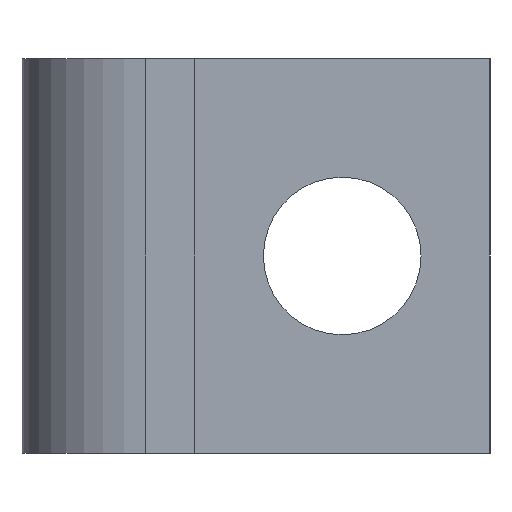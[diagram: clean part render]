
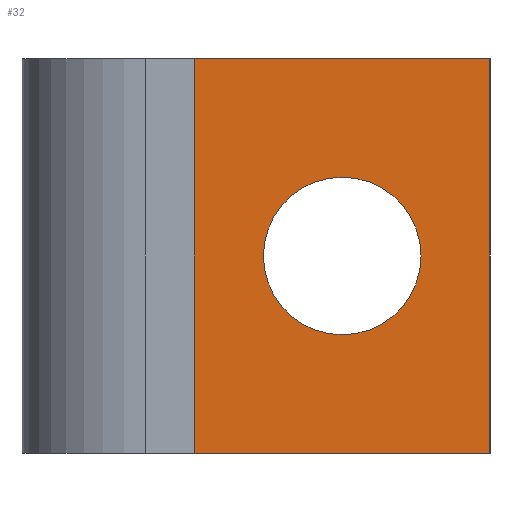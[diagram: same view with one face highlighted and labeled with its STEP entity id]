
A CAD part, left-side view. The second image highlights one B-rep face of the part: STEP entity #32.
In plain terms, the highlighted planar face has unit normal (-1, 0, 0).
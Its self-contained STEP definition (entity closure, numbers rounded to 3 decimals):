
#7 = AXIS2_PLACEMENT_3D ( 'NONE', #591, #601, #607 ) ;
#17 = EDGE_CURVE ( 'NONE', #400, #382, #231, .T. ) ;
#32 = ADVANCED_FACE ( 'NONE', ( #248, #233 ), #385, .T. ) ;
#49 = EDGE_CURVE ( 'NONE', #420, #417, #310, .T. ) ;
#51 = EDGE_CURVE ( 'NONE', #363, #359, #289, .T. ) ;
#53 = EDGE_CURVE ( 'NONE', #382, #417, #263, .T. ) ;
#94 = EDGE_CURVE ( 'NONE', #400, #420, #325, .T. ) ;
#98 = ORIENTED_EDGE ( 'NONE', *, *, #49, .F. ) ;
#113 = ORIENTED_EDGE ( 'NONE', *, *, #53, .T. ) ;
#114 = ORIENTED_EDGE ( 'NONE', *, *, #94, .F. ) ;
#115 = ORIENTED_EDGE ( 'NONE', *, *, #17, .T. ) ;
#118 = ORIENTED_EDGE ( 'NONE', *, *, #51, .F. ) ;
#138 = ORIENTED_EDGE ( 'NONE', *, *, #676, .F. ) ;
#213 = EDGE_LOOP ( 'NONE', ( #98, #114, #115, #113 ) ) ;
#215 = EDGE_LOOP ( 'NONE', ( #138, #118 ) ) ;
#231 = LINE ( 'NONE', #378, #243 ) ;
#233 = FACE_OUTER_BOUND ( 'NONE', #213, .T. ) ;
#243 = VECTOR ( 'NONE', #410, 1000. ) ;
#248 = FACE_BOUND ( 'NONE', #215, .T. ) ;
#263 = LINE ( 'NONE', #445, #277 ) ;
#277 = VECTOR ( 'NONE', #514, 1000. ) ;
#289 = CIRCLE ( 'NONE', #663, 1.6 ) ;
#307 = VECTOR ( 'NONE', #477, 1000. ) ;
#310 = LINE ( 'NONE', #438, #307 ) ;
#325 = LINE ( 'NONE', #533, #342 ) ;
#340 = CIRCLE ( 'NONE', #7, 1.6 ) ;
#342 = VECTOR ( 'NONE', #564, 1000. ) ;
#359 = VERTEX_POINT ( 'NONE', #558 ) ;
#363 = VERTEX_POINT ( 'NONE', #566 ) ;
#378 = CARTESIAN_POINT ( 'NONE',  ( -1.5, -1., 0. ) ) ;
#382 = VERTEX_POINT ( 'NONE', #615 ) ;
#385 = PLANE ( 'NONE',  #649 ) ;
#389 = DIRECTION ( 'NONE',  ( -1., 0., 0. ) ) ;
#390 = DIRECTION ( 'NONE',  ( 0., -1., 0. ) ) ;
#400 = VERTEX_POINT ( 'NONE', #589 ) ;
#410 = DIRECTION ( 'NONE',  ( 0., -1., 0. ) ) ;
#417 = VERTEX_POINT ( 'NONE', #619 ) ;
#420 = VERTEX_POINT ( 'NONE', #602 ) ;
#429 = CARTESIAN_POINT ( 'NONE',  ( -1.5, -1., 0. ) ) ;
#438 = CARTESIAN_POINT ( 'NONE',  ( -1.5, -1., 8. ) ) ;
#439 = DIRECTION ( 'NONE',  ( 0., -1., 0. ) ) ;
#445 = CARTESIAN_POINT ( 'NONE',  ( -1.5, -7., 0. ) ) ;
#474 = CARTESIAN_POINT ( 'NONE',  ( -1.5, -4., 4. ) ) ;
#477 = DIRECTION ( 'NONE',  ( 0., -1., 0. ) ) ;
#481 = DIRECTION ( 'NONE',  ( -1., 0., 0. ) ) ;
#514 = DIRECTION ( 'NONE',  ( 0., 0., 1. ) ) ;
#533 = CARTESIAN_POINT ( 'NONE',  ( -1.5, -1., 0. ) ) ;
#558 = CARTESIAN_POINT ( 'NONE',  ( -1.5, -4., 2.4 ) ) ;
#564 = DIRECTION ( 'NONE',  ( 0., 0., 1. ) ) ;
#566 = CARTESIAN_POINT ( 'NONE',  ( -1.5, -4., 5.6 ) ) ;
#589 = CARTESIAN_POINT ( 'NONE',  ( -1.5, -1., 0. ) ) ;
#591 = CARTESIAN_POINT ( 'NONE',  ( -1.5, -4., 4. ) ) ;
#601 = DIRECTION ( 'NONE',  ( -1., 0., 0. ) ) ;
#602 = CARTESIAN_POINT ( 'NONE',  ( -1.5, -1., 8. ) ) ;
#607 = DIRECTION ( 'NONE',  ( 0., -1., 0. ) ) ;
#615 = CARTESIAN_POINT ( 'NONE',  ( -1.5, -7., 0. ) ) ;
#619 = CARTESIAN_POINT ( 'NONE',  ( -1.5, -7., 8. ) ) ;
#649 = AXIS2_PLACEMENT_3D ( 'NONE', #429, #389, #390 ) ;
#663 = AXIS2_PLACEMENT_3D ( 'NONE', #474, #481, #439 ) ;
#676 = EDGE_CURVE ( 'NONE', #359, #363, #340, .T. ) ;
